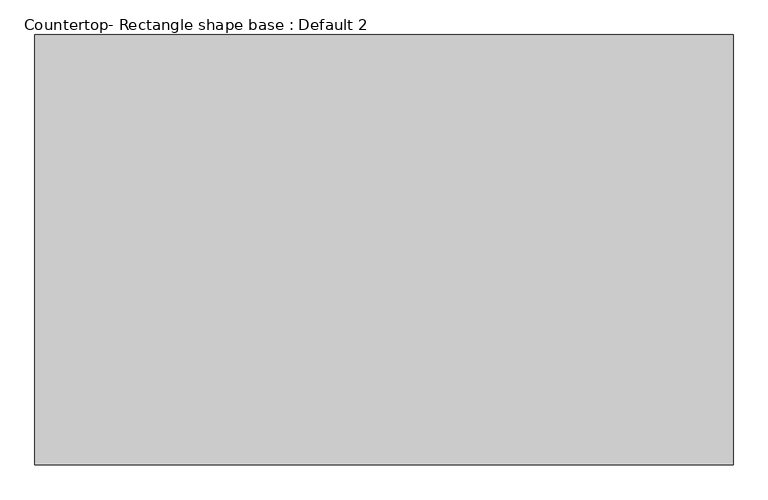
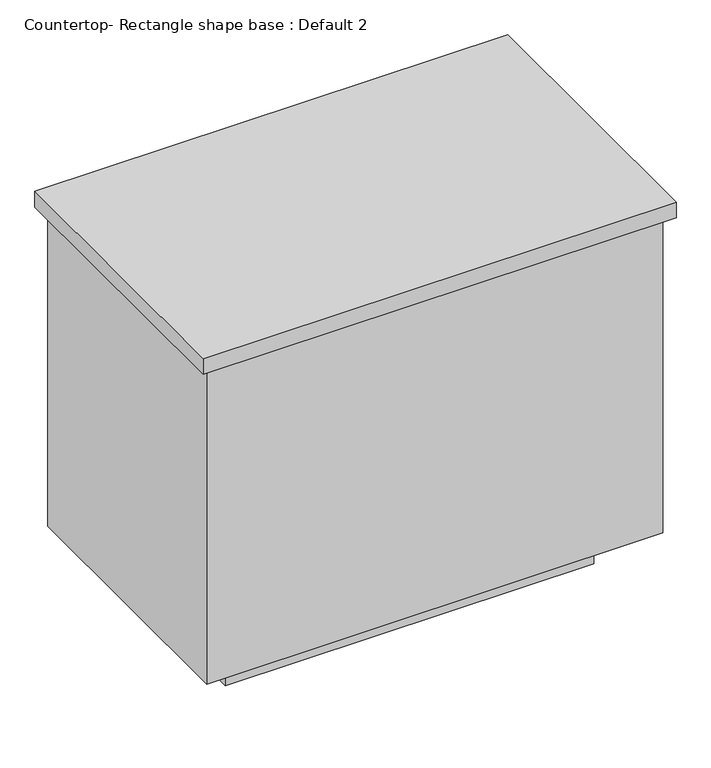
"""IFC4 building model written with IfcOpenShell, lengths in millimetres: proxy geometry, Countertop- Rectangle shape base : Default 2."""

from ifc_helpers import new_model, si_unit, frame, origin, origin_with_axes, place, context, project, spatial, polyline, outline, extrude, source, transform, mapped, element, save


def countertop_rectangle_shape_base_default_2_ce7c2608(model_context):
    return source(origin(), model_context, "Body", "SweptSolid", [
        extrude(outline(polyline([(215.9, 44.45), (215.9, 717.55), (1308.1, 717.55), (1308.1, 44.45), (215.9, 44.45)])), frame((0.0, 0.0, 876.3), z_axis=(0.0, 0.0, 1.0), x_axis=(1.0, 0.0, 0.0)), (0.0, 0.0, 1.0), 38.1),
        extrude(outline(polyline([(1289.05, 698.5), (1289.05, 63.5), (234.95, 63.5), (234.95, 698.5), (1289.05, 698.5)])), frame((0.0, 0.0, 101.6), z_axis=(0.0, 0.0, 1.0), x_axis=(1.0, 0.0, 0.0)), (0.0, 0.0, 1.0), 774.7),
        extrude(outline(polyline([(1187.45, 596.9), (1187.45, 165.1), (336.55, 165.1), (336.55, 596.9), (1187.45, 596.9)])), origin_with_axes(), (0.0, 0.0, 1.0), 101.6),
    ])


if __name__ == "__main__":
    model = new_model("IFC4")
    model_context = context("Model", 3, world=origin())
    ifc_project = project(units=[si_unit("LENGTHUNIT", "METRE", prefix="MILLI")], contexts=[model_context])
    site = spatial("IfcSite", under=ifc_project)
    building = spatial("IfcBuilding", under=site)
    placement = place(None, origin())
    countertop_rectangle_shape_base_default_2_shape = countertop_rectangle_shape_base_default_2_ce7c2608(model_context)
    element("IfcBuildingElementProxy", 1, Name="Countertop- Rectangle shape base : Default 2", ObjectType="Countertop- Rectangle shape base : Default 2", at=placement, inside=building, context=model_context, shape_type="MappedRepresentation", body=[
        mapped(countertop_rectangle_shape_base_default_2_shape, transform((0.0, 0.0, 0.0), x_axis=(1.0, 0.0, 0.0), y_axis=(0.0, 1.0, 0.0), z_axis=(0.0, 0.0, 1.0))),
    ])
    save(model, "model.ifc")
